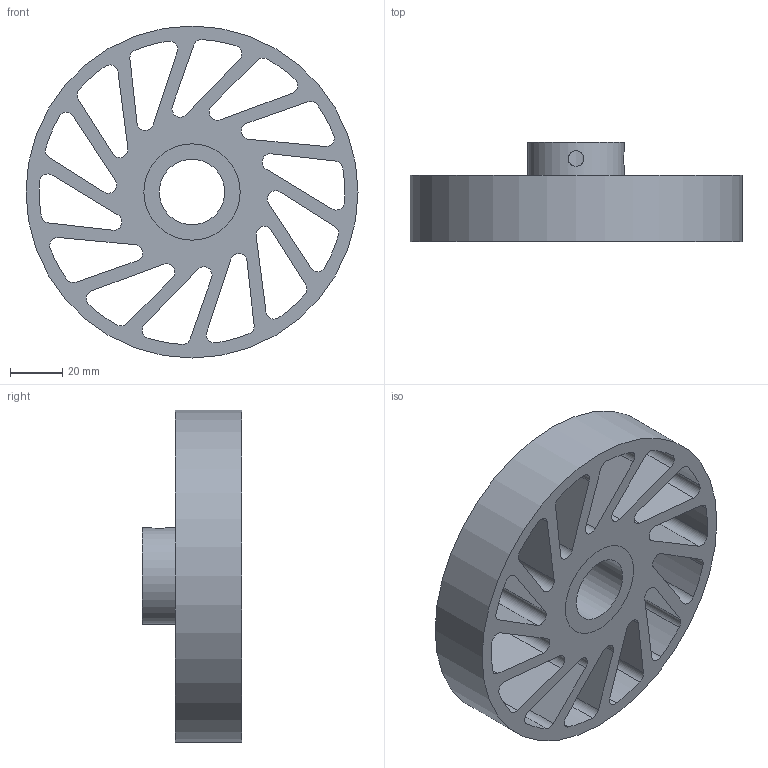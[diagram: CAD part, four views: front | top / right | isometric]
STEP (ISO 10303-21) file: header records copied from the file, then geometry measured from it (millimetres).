
FILE_DESCRIPTION(/* description */ (''),/* implementation_level */ '2;1');
FILE_NAME(/* name */ 'NCWM-480-XXX-YYY.stp',/* time_stamp */ '2023-02-02T16:33:21-06:00',/* author */ ('AG'),/* organization */ ('Meridian Laboratory'),/* preprocessor_version */ 'ST-DEVELOPER v18.1',/* originating_system */ 'Autodesk Inventor 2022',/* authorisation */ '');
FILE_SCHEMA (('AUTOMOTIVE_DESIGN { 1 0 10303 214 3 1 1 }'));
Length unit declared in the file: millimetre
Products named in the file (1): NCWM-440
Bounding box: 127 x 38.1 x 127 mm (x, y, z)
Volume: 174872 mm3; surface area: 64561.4 mm2
Topology: 2 solids, 2 shells, 94 faces, 276 edges, 186 vertices
Faces by surface type: cylinder 62, plane 32
Full cylindrical faces by diameter (mm): 6 x2, 25.025 x1, 36.83 x2, 127 x1
Entity records: 3528 total; most frequent: CARTESIAN_POINT 697, DIRECTION 576, ORIENTED_EDGE 552, EDGE_CURVE 276, AXIS2_PLACEMENT_3D 215, VERTEX_POINT 186, LINE 146, VECTOR 146
